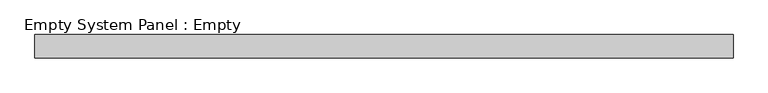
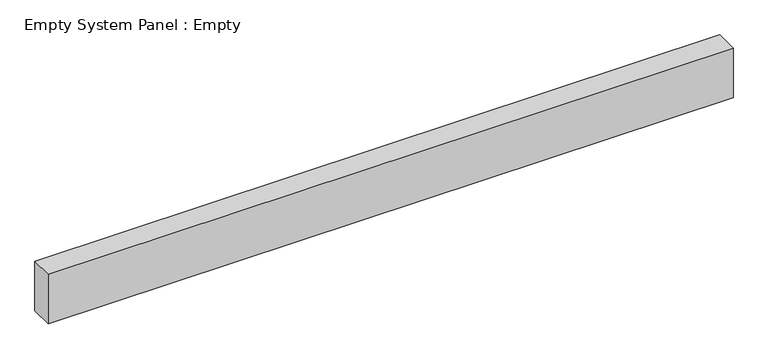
"""IFC4 building model written with IfcOpenShell, lengths in millimetres: plate geometry, Empty System Panel : Empty."""

import ifcopenshell
import ifcopenshell.guid

model = None  # the IFC model being written
_history = None  # IfcOwnerHistory: only IFC2X3 demands one
_inside = {}  # id of a spatial element -> (the spatial element, [elements in it])
_under = {}  # id of a project, library or spatial element -> (it, [spatial elements below it])
_declared = {}  # id of a project -> (the project, [libraries it declares])
_typed = {}  # id of a type object -> (the type object, [elements of that type])
_made_of = {}  # id of a material, layer set ... -> (it, [elements and type objects made of it])


def new_model(schema):
    """Start an empty IFC model of exactly this schema.

    Asked for "IFC4X3", IfcOpenShell would pick the latest addendum, in which some entities
    have other attributes; the version numbers below select the first issue.
    IFC2X3 requires an IfcOwnerHistory on every rooted entity: one is made here for all.
    """
    global model, _history
    if schema == "IFC4X3":
        model = ifcopenshell.file(schema_version=(4, 3, 0, 0))
    else:
        model = ifcopenshell.file(schema=schema)
    _inside.clear()
    _under.clear()
    _declared.clear()
    _typed.clear()
    _made_of.clear()
    _history = None
    if model.schema == "IFC2X3":
        org = make("IfcOrganization", Name="unknown")
        user = make(
            "IfcPersonAndOrganization",
            ThePerson=make("IfcPerson", FamilyName="unknown"),
            TheOrganization=org,
        )
        app = make(
            "IfcApplication",
            ApplicationDeveloper=org,
            Version="unknown",
            ApplicationFullName="unknown",
            ApplicationIdentifier="unknown",
        )
        _history = make(
            "IfcOwnerHistory",
            OwningUser=user,
            OwningApplication=app,
            ChangeAction="ADDED",
            CreationDate=0,
        )
    return model


def make(cls, **values):
    """One entity of the class cls with the attributes given. An attribute that is None is left unset."""
    return model.create_entity(
        cls, **{name: value for name, value in values.items() if value is not None}
    )


def rooted(cls, **values):
    """An entity with a GlobalId (a new one), such as an element, a storey or a relation."""
    return make(cls, GlobalId=ifcopenshell.guid.new(), OwnerHistory=_history, **values)


def si_unit(unit_type, name, prefix=None):
    """IfcSIUnit, for example si_unit("LENGTHUNIT", "METRE", prefix="MILLI")."""
    return make("IfcSIUnit", UnitType=unit_type, Prefix=prefix, Name=name)


def assignment(units):
    """IfcUnitAssignment: the units of a project."""
    return None if units is None else make("IfcUnitAssignment", Units=units)


def point(xyz):
    """IfcCartesianPoint."""
    return None if xyz is None else make("IfcCartesianPoint", Coordinates=xyz)


def direction(xyz):
    """IfcDirection."""
    return None if xyz is None else make("IfcDirection", DirectionRatios=xyz)


def frame(location, z_axis=None, x_axis=None):
    """IfcAxis2Placement3D, a coordinate frame: its origin and axes. An axis left out is left unset."""
    return make(
        "IfcAxis2Placement3D",
        Location=point(location),
        Axis=direction(z_axis),
        RefDirection=direction(x_axis),
    )


def origin():
    """The frame at (0, 0, 0) with its axes left unset."""
    return frame((0.0, 0.0, 0.0))


def origin_with_axes():
    """The frame at (0, 0, 0) with the z axis (0, 0, 1) and the x axis (1, 0, 0) written out."""
    return frame((0.0, 0.0, 0.0), z_axis=(0.0, 0.0, 1.0), x_axis=(1.0, 0.0, 0.0))


def place(relative_to, where):
    """IfcLocalPlacement: puts the frame where relative to a parent placement (None: the world)."""
    return make(
        "IfcLocalPlacement", PlacementRelTo=relative_to, RelativePlacement=where
    )


def context(
    kind, dimensions, precision=None, world=None, true_north=None, identifier=None
):
    """IfcGeometricRepresentationContext, for example the 3D "Model" context."""
    return make(
        "IfcGeometricRepresentationContext",
        ContextIdentifier=identifier,
        ContextType=kind,
        CoordinateSpaceDimension=dimensions,
        Precision=precision,
        WorldCoordinateSystem=world,
        TrueNorth=true_north,
    )


def project(units=None, contexts=None):
    """IfcProject with its units and contexts."""
    return rooted(
        "IfcProject",
        Name="project",
        RepresentationContexts=contexts,
        UnitsInContext=assignment(units),
    )


def spatial(cls, under=None, at=None, **own):
    """A site, building, storey or space (cls), placed at a placement, below another one or the project."""
    s = rooted(cls, ObjectPlacement=at, **own)
    if under is not None:
        _under.setdefault(under.id(), (under, []))[1].append(s)
    return s


def polyline(points):
    """IfcPolyline through the points."""
    return make("IfcPolyline", Points=[point(p) for p in points])


def outline(outer, holes=None, kind="AREA"):
    """IfcArbitraryClosedProfileDef: a profile drawn as a closed curve; with holes, ...WithVoids."""
    if holes is None:
        return make("IfcArbitraryClosedProfileDef", ProfileType=kind, OuterCurve=outer)
    return make(
        "IfcArbitraryProfileDefWithVoids",
        ProfileType=kind,
        OuterCurve=outer,
        InnerCurves=holes,
    )


def extrude(swept, where, along, depth):
    """IfcExtrudedAreaSolid: the profile swept, set in the frame where, extruded along a direction by depth."""
    return make(
        "IfcExtrudedAreaSolid",
        SweptArea=swept,
        Position=where,
        ExtrudedDirection=direction(along),
        Depth=depth,
    )


def shape(context_of_items, identifier, shape_type, items):
    """IfcShapeRepresentation: the items that make up one representation, for example the "Body"."""
    return make(
        "IfcShapeRepresentation",
        ContextOfItems=context_of_items,
        RepresentationIdentifier=identifier,
        RepresentationType=shape_type,
        Items=items,
    )


def source(mapping_origin, context_of_items, identifier, shape_type, items):
    """IfcRepresentationMap: a shape defined once, which mapped items show again and again."""
    return make(
        "IfcRepresentationMap",
        MappingOrigin=mapping_origin,
        MappedRepresentation=shape(context_of_items, identifier, shape_type, items),
    )


def transform(
    local_origin,
    x_axis=None,
    y_axis=None,
    z_axis=None,
    scale=None,
    scale2=None,
    scale3=None,
    uniform=True,
):
    """IfcCartesianTransformationOperator3D, or its non-uniform kind. x_axis, y_axis, z_axis: its Axis1, 2, 3."""
    if uniform:
        return make(
            "IfcCartesianTransformationOperator3D",
            Axis1=direction(x_axis),
            Axis2=direction(y_axis),
            LocalOrigin=point(local_origin),
            Scale=scale,
            Axis3=direction(z_axis),
        )
    return make(
        "IfcCartesianTransformationOperator3DnonUniform",
        Axis1=direction(x_axis),
        Axis2=direction(y_axis),
        LocalOrigin=point(local_origin),
        Scale=scale,
        Axis3=direction(z_axis),
        Scale2=scale2,
        Scale3=scale3,
    )


def mapped(mapping_source, mapping_target):
    """IfcMappedItem: shows the shape of a source again, moved by a transform."""
    return make(
        "IfcMappedItem", MappingSource=mapping_source, MappingTarget=mapping_target
    )


def made_of(thing, what):
    """Note that an element or type object is made of a material, layer set ...; save() writes the relation."""
    if what is not None:
        _made_of.setdefault(what.id(), (what, []))[1].append(thing)
    return thing


def element(
    cls,
    number,
    at=None,
    inside=None,
    cuts=None,
    type_object=None,
    material=None,
    context=None,
    identifier="Body",
    shape_type=None,
    held_by="IfcProductDefinitionShape",
    body=None,
    shapes=None,
    **own,
):
    """One element of the class cls, such as IfcWall. Its Tag is "e" and its number.

    at: its placement. inside: the storey or other place that contains it. cuts: it is an
    opening in that element (IfcRelVoidsElement). A single representation is given by context,
    identifier, shape_type and body (its items); several are given by shapes. held_by: the class
    of the entity that holds the representations. save() writes the other relations.
    """
    e = rooted(cls, Tag="e%d" % number, ObjectPlacement=at, **own)
    if body is not None:
        shapes = [shape(context, identifier, shape_type, body)]
    if shapes is not None:
        e.Representation = make(held_by, Representations=shapes)
    if inside is not None:
        _inside.setdefault(inside.id(), (inside, []))[1].append(e)
    if cuts is not None:
        rooted(
            "IfcRelVoidsElement", RelatingBuildingElement=cuts, RelatedOpeningElement=e
        )
    if type_object is not None:
        _typed.setdefault(type_object.id(), (type_object, []))[1].append(e)
    return made_of(e, material)


def aggregate(whole, parts):
    """IfcRelAggregates: a whole, such as a stair, and the parts it consists of."""
    return rooted("IfcRelAggregates", RelatingObject=whole, RelatedObjects=parts)


def save(model, path):
    """Write the relations noted so far, then the file.

    IfcRelAggregates (storeys below a building ...), IfcRelContainedInSpatialStructure (elements
    in a storey), IfcRelDefinesByType, IfcRelAssociatesMaterial and IfcRelDeclares: one each for
    every whole, place, type object, material and project.
    """
    for whole, parts in _under.values():
        aggregate(whole, parts)
    for where, things in _inside.values():
        rooted(
            "IfcRelContainedInSpatialStructure",
            RelatedElements=things,
            RelatingStructure=where,
        )
    for kind, things in _typed.values():
        rooted("IfcRelDefinesByType", RelatedObjects=things, RelatingType=kind)
    for what, things in _made_of.values():
        rooted("IfcRelAssociatesMaterial", RelatedObjects=things, RelatingMaterial=what)
    for by, libraries in _declared.values():
        rooted("IfcRelDeclares", RelatingContext=by, RelatedDefinitions=libraries)
    model.write(path)


def empty_system_panel_empty_0d5e6a9c(model_context):
    return source(origin(), model_context, "Body", "SweptSolid", [
        extrude(outline(polyline([(1500.0, -50.0), (-1500.0, -50.0), (-1500.0, 50.0), (1500.0, 50.0), (1500.0, -50.0)])), origin_with_axes(), (0.0, 0.0, 1.0), 229.2893219),
    ])


if __name__ == "__main__":
    model = new_model("IFC4")
    model_context = context("Model", 3, world=origin())
    ifc_project = project(units=[si_unit("LENGTHUNIT", "METRE", prefix="MILLI")], contexts=[model_context])
    site = spatial("IfcSite", under=ifc_project)
    building = spatial("IfcBuilding", under=site)
    placement = place(None, origin())
    empty_system_panel_empty_shape = empty_system_panel_empty_0d5e6a9c(model_context)
    element("IfcPlate", 1, ObjectType="Empty System Panel : Empty", at=placement, inside=building, context=model_context, shape_type="MappedRepresentation", body=[
        mapped(empty_system_panel_empty_shape, transform((0.0, 0.0, 0.0), x_axis=(1.0, 0.0, 0.0), y_axis=(0.0, 1.0, 0.0), z_axis=(0.0, 0.0, 1.0))),
    ])
    save(model, "model.ifc")
